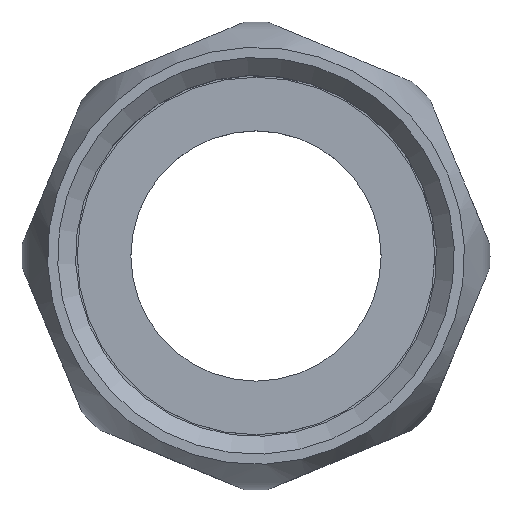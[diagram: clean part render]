
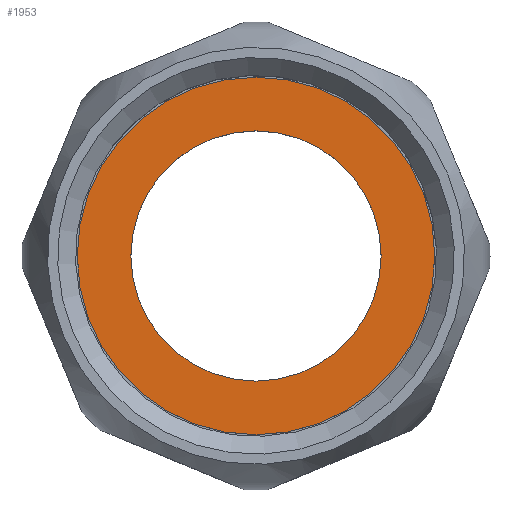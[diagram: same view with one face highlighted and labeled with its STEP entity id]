
A CAD part, top view. The second image highlights one B-rep face of the part: STEP entity #1953.
In plain terms, the highlighted planar face has unit normal (0, 0, 1).
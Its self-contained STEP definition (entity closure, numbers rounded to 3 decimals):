
#1891=CARTESIAN_POINT('',(10.5,0.,2.0));
#1892=VERTEX_POINT('',#1891);
#1893=CARTESIAN_POINT('',(0.0,0.0,2.0));
#1894=DIRECTION('',(0.0,0.0,-1.0));
#1895=DIRECTION('',(-1.0,0.0,0.0));
#1896=AXIS2_PLACEMENT_3D('',#1893,#1894,#1895);
#1897=CIRCLE('',#1896,10.5);
#1898=EDGE_CURVE('',#1892,#1892,#1897,.T.);
#1919=CARTESIAN_POINT('',(15.0,0.,2.0));
#1920=VERTEX_POINT('',#1919);
#1921=CARTESIAN_POINT('',(0.0,0.0,2.0));
#1922=DIRECTION('',(0.0,0.0,-1.0));
#1923=DIRECTION('',(-1.0,0.0,0.0));
#1924=AXIS2_PLACEMENT_3D('',#1921,#1922,#1923);
#1925=CIRCLE('',#1924,15.0);
#1926=EDGE_CURVE('',#1920,#1920,#1925,.T.);
#1942=CARTESIAN_POINT('',(0.0,0.0,2.0));
#1943=DIRECTION('',(0.0,0.0,-1.0));
#1944=DIRECTION('',(-1.0,0.0,0.0));
#1945=AXIS2_PLACEMENT_3D('',#1942,#1943,#1944);
#1946=PLANE('',#1945);
#1947=ORIENTED_EDGE('',*,*,#1926,.F.);
#1948=EDGE_LOOP('',(#1947));
#1949=FACE_OUTER_BOUND('',#1948,.T.);
#1950=ORIENTED_EDGE('',*,*,#1898,.T.);
#1951=EDGE_LOOP('',(#1950));
#1952=FACE_BOUND('',#1951,.T.);
#1953=ADVANCED_FACE('',(#1949,#1952),#1946,.F.);
